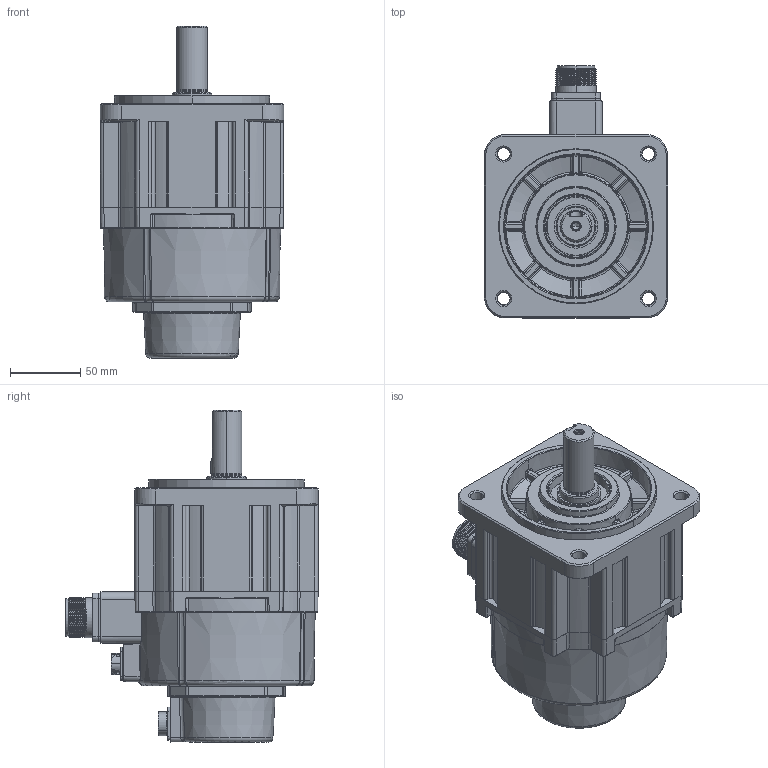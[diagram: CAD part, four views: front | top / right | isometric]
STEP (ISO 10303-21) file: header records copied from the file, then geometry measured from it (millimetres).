
FILE_DESCRIPTION((''),'2;1');
FILE_NAME('ECM-E3M-EX1315SSE_ASM','2024-03-22T15:37:13',('KUAN.WEI.SHIH'),(''),'CREO PARAMETRIC BY PTC INC, 2020454','CREO PARAMETRIC BY PTC INC, 2020454','');
FILE_SCHEMA(('CONFIG_CONTROL_DESIGN'));
Products named in the file (6): ECM-E3M-EX1315SSE_00__SW0001; MS3102A18-10P_2_1; MS3102A18-10P_2_2; MS3102A18-10P_2_ASM; SC-CMV1-R02P; ECM-E3M-EX1315SSE_ASM
Assembly tree (5 placements, depth 3):
  ECM-E3M-EX1315SSE_ASM
    ECM-E3M-EX1315SSE_00__SW0001
    MS3102A18-10P_2_ASM
      MS3102A18-10P_2_1
      MS3102A18-10P_2_2
    SC-CMV1-R02P
Bounding box: 130 x 178.9 x 235.5 mm (x, y, z)
Volume: 2113600.5 mm3; surface area: 171112.6 mm2
Topology: 6 solids, 27 shells, 3461 faces, 9073 edges, 5736 vertices
Faces by surface type: plane 1575, cylinder 942, cone 354, bspline 256, torus 201, sphere 91, extrusion 42
Entity records: 124523 total; most frequent: CARTESIAN_POINT 41566, ORIENTED_EDGE 17813, DIRECTION 16383, EDGE_CURVE 8943, VERTEX_POINT 5736, AXIS2_PLACEMENT_3D 5676, VECTOR 5031, LINE 4989
